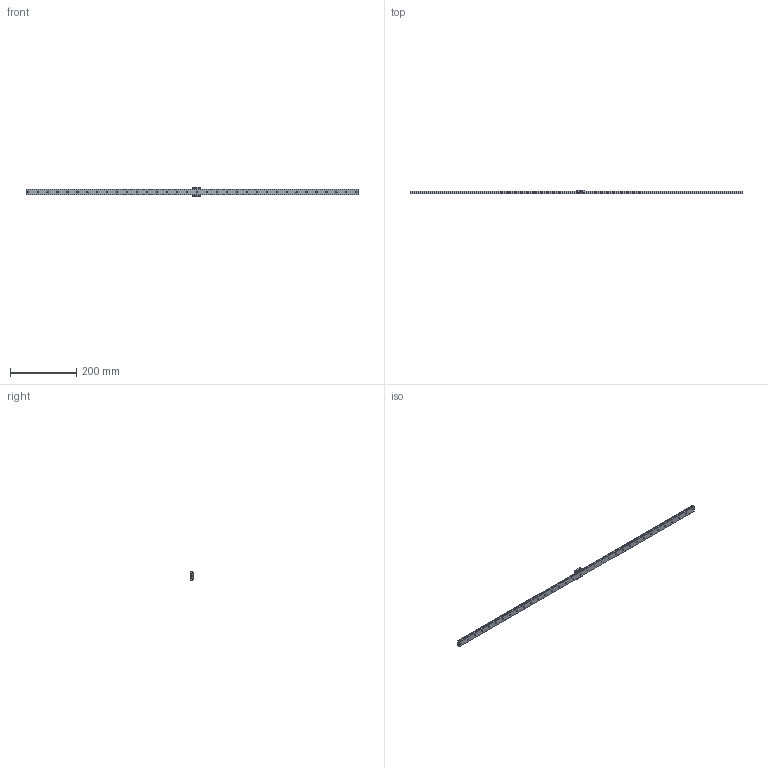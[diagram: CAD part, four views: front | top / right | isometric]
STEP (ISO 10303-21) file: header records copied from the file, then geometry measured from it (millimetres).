
FILE_DESCRIPTION(/* description */ ('STEP AP214'),/* implementation_level */ '2;1');
FILE_NAME(/* name */ 'SRS9WSSS-1000LM_G5_0_500_0_0_0_1',/* time_stamp */ '2024-01-22T14:19:19+01:00',/* author */ ('License CC BY-ND 4.0'),/* organization */ ('CADENAS'),/* preprocessor_version */ 'ST-DEVELOPER v19.3',/* originating_system */ 'PARTsolutions',/* authorisation */ ' ');
FILE_SCHEMA (('AUTOMOTIVE_DESIGN {1 0 10303 214 3 1 1}'));
Length unit declared in the file: millimetre
Products named in the file (3): SRS9WSSS-1000LM_G5_0_500_0_0_0_1; SRS9WS10005 Track; SRS9WSSS1 Slider
Assembly tree (2 placements, depth 2):
  SRS9WSSS-1000LM_G5_0_500_0_0_0_1
    SRS9WS10005 Track
    SRS9WSSS1 Slider
Bounding box: 1000 x 12 x 30 mm (x, y, z)
Volume: 132670.6 mm3; surface area: 57446.2 mm2
Topology: 2 solids, 2 shells, 236 faces, 572 edges, 374 vertices
Faces by surface type: plane 131, cylinder 101, cone 4
Full cylindrical faces by diameter (mm): 1.6 x2, 2.459 x2, 3.5 x34, 6 x34
Entity records: 6739 total; most frequent: DIRECTION 1178, CARTESIAN_POINT 1103, ORIENTED_EDGE 984, EDGE_CURVE 492, AXIS2_PLACEMENT_3D 447, FACE_BOUND 420, EDGE_LOOP 418, VERTEX_POINT 372
